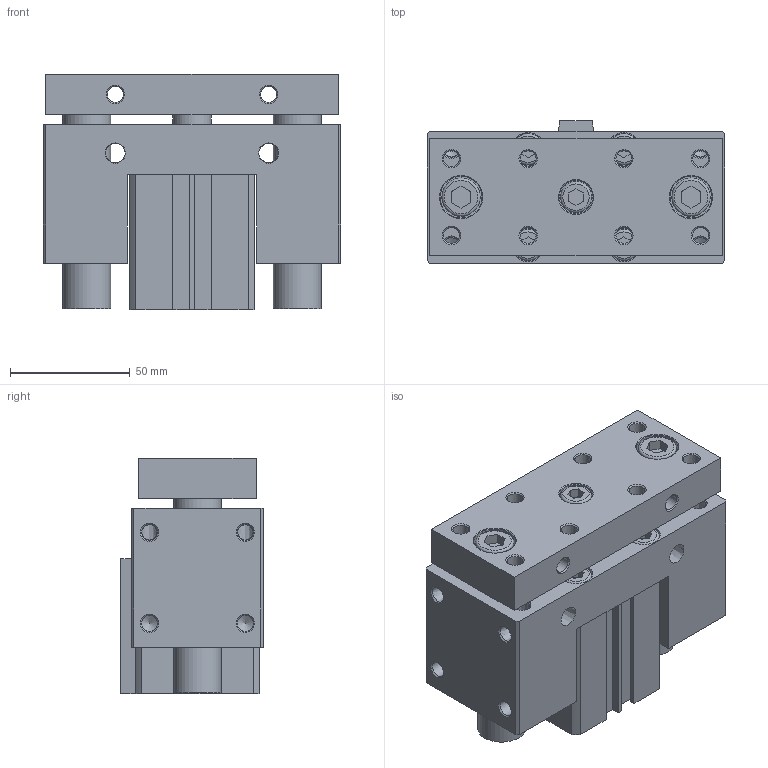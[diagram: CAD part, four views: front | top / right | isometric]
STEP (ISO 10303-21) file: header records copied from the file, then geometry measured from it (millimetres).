
FILE_DESCRIPTION((''),'2;1');
FILE_NAME('I:\3D電子目錄\氣缸\JCB\JCB\JCB40-S\JCB40x20-S.stp','2007-08-23T20:13:56',('Administrator'),(''),'Autodesk Inventor 11','Autodesk Inventor 11','');
FILE_SCHEMA(('AUTOMOTIVE_DESIGN { 1 0 10303 214 1 1 1 1 }'));
Length unit declared in the file: millimetre
Products named in the file (1): JCB40
Bounding box: 124 x 59.5 x 98.5 mm (x, y, z)
Volume: 496324.1 mm3; surface area: 112514.5 mm2
Topology: 3 solids, 3 shells, 303 faces, 731 edges, 473 vertices
Faces by surface type: plane 163, cylinder 52, cone 47, bspline 33, torus 8
Full cylindrical faces by diameter (mm): 2.2 x2, 6.647 x4, 6.8 x4, 10 x8, 13 x5, 14 x5, 16 x3, 17 x1, 17.5 x2, 20 x2, 23 x2, 28 x1, 29 x1, 42 x4, 44.5 x2
Entity records: 8528 total; most frequent: CARTESIAN_POINT 2090, DIRECTION 1302, ORIENTED_EDGE 1114, EDGE_CURVE 557, EDGE_LOOP 522, AXIS2_PLACEMENT_3D 480, VERTEX_POINT 435, VECTOR 342
